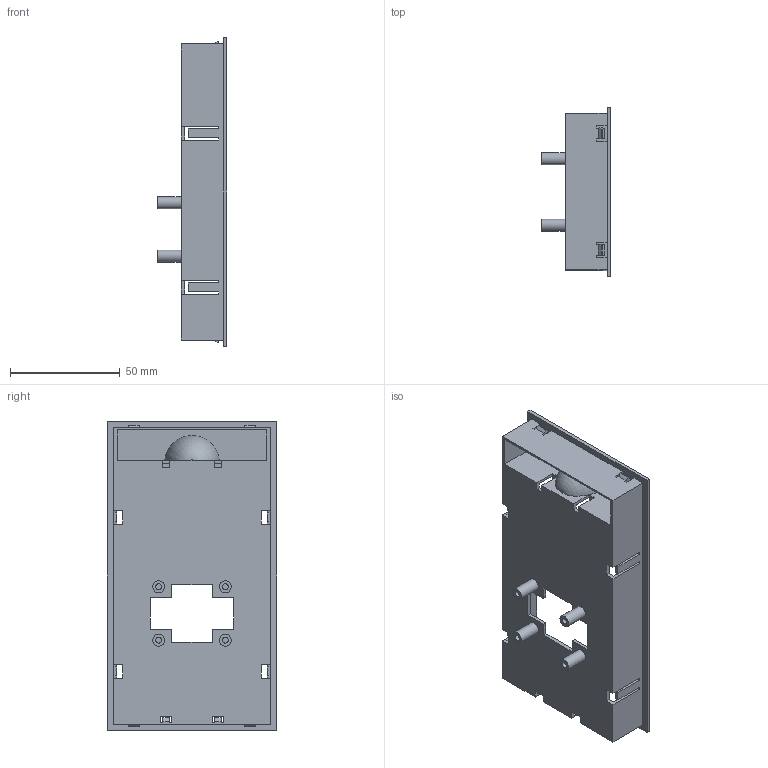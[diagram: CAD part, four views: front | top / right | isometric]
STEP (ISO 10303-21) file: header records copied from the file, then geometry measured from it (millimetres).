
FILE_DESCRIPTION(('STEP AP203'), '1');
FILE_NAME('Ðàìêà ìîíòàæíàÿ _ FCI-MF-B', '', ('UNSPECIFIED'), ('UNSPECIFIED'), 'C3D Converter', 'C3D Toolkit', '');
FILE_SCHEMA(('CONFIG_CONTROL_DESIGN'));
Length unit declared in the file: millimetre
Products named in the file (1): FCI-MF-B
Bounding box: 31.6 x 77 x 140.5 mm (x, y, z)
Volume: 27923.1 mm3; surface area: 39992.9 mm2
Topology: 1 solids, 1 shells, 168 faces, 520 edges, 344 vertices
Faces by surface type: plane 150, cylinder 16, revolution 2
Full cylindrical faces by diameter (mm): 2.7 x4, 5.5 x4
Entity records: 7270 total; most frequent: CARTESIAN_POINT 1211, ORIENTED_EDGE 1024, DIRECTION 880, EDGE_CURVE 512, LINE 472, VECTOR 472, VERTEX_POINT 344, AXIS2_PLACEMENT_3D 203
